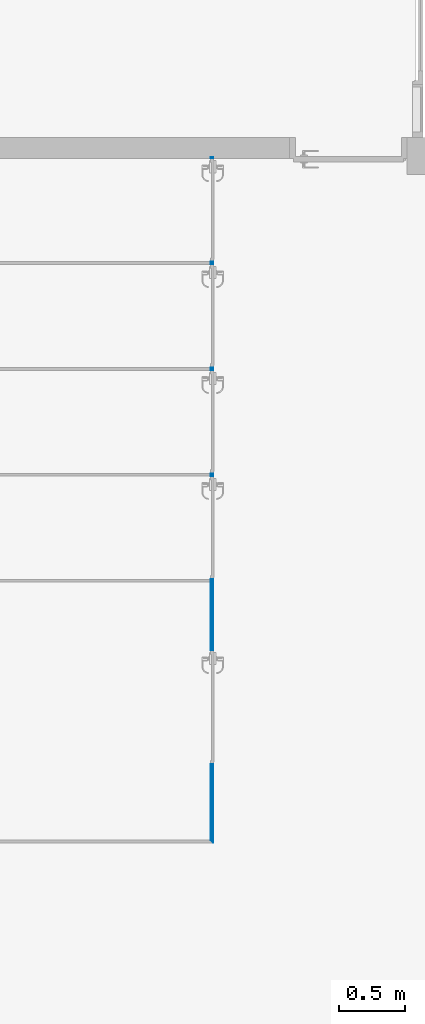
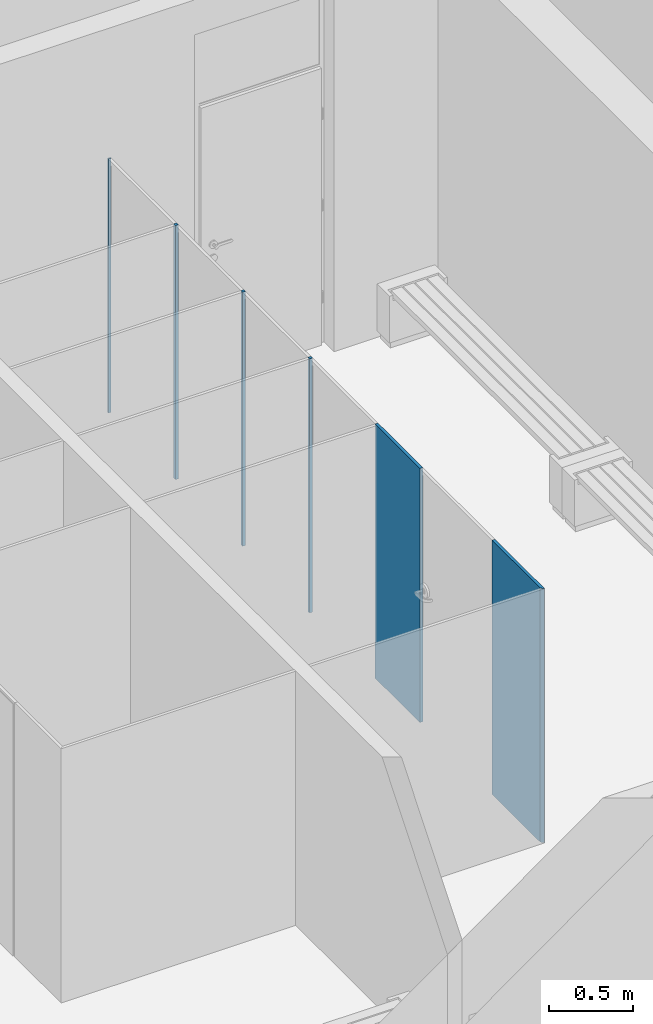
# One storey, part 29 of 45: 1 wall, 5 openings.
"""IFC2X3 building model written with IfcOpenShell, lengths in metres."""

from ifc_helpers import new_model, entity, si_unit, converted_unit, money_unit, direction, frame, origin_with_axes, place, context, subcontext, project, spatial, polyline, outline, extrude, material, layer, layer_set, layer_usage, type_object, element, save


model = new_model("IFC2X3")

# Units and contexts
model_context = context("Model", 3, precision=1e-05, world=origin_with_axes(), true_north=direction((0.0, 1.0)))
body_context = subcontext(model_context, "Body", "Model", "MODEL_VIEW")
ifc_project = project(units=[si_unit("LENGTHUNIT", "METRE"), si_unit("AREAUNIT", "SQUARE_METRE"), si_unit("VOLUMEUNIT", "CUBIC_METRE"), converted_unit("PLANEANGLEUNIT", "DEGREE", entity("IfcPlaneAngleMeasure", 0.0174532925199), si_unit("PLANEANGLEUNIT", "RADIAN"), dimensions=[0, 0, 0, 0, 0, 0, 0]), si_unit("SOLIDANGLEUNIT", "STERADIAN"), money_unit("EUR"), converted_unit("TIMEUNIT", "Year", entity("IfcTimeMeasure", 31556926.0), si_unit("TIMEUNIT", "SECOND"), dimensions=[0, 0, 0, 0, 0, 0, 0]), si_unit("MASSUNIT", "GRAM"), si_unit("THERMODYNAMICTEMPERATUREUNIT", "DEGREE_CELSIUS"), si_unit("LUMINOUSINTENSITYUNIT", "LUMEN")], contexts=[model_context])

# Site, building, storey
site_placement = place(None, origin_with_axes())
site = spatial("IfcSite", under=ifc_project, at=site_placement, Name="Site", CompositionType="ELEMENT")
building_placement = place(site_placement, origin_with_axes())
building = spatial("IfcBuilding", under=site, at=building_placement, Name="Bâtiment", CompositionType="ELEMENT")
storey_placement = place(building_placement, origin_with_axes())
storey = spatial("IfcBuildingStorey", under=building, at=storey_placement, Name="NIVEAU BAS GYMNASE", CompositionType="ELEMENT", Elevation=0.0)

# Wall, openings
ifc_material = material(Name="Hachure solide 3821565075")
ifc_layer = layer(ifc_material, 0.02, ventilated="UNKNOWN")
ifc_layer_set = layer_set([ifc_layer], Name="Hachure solide 3821565075 0.02")
ifc_layer_usage = layer_usage(ifc_layer_set, "AXIS2", "POSITIVE", -0.02)
wall_type = type_object("IfcWallType", Name="Hachure solide 3821565075 20", PredefinedType="NOTDEFINED")
wall_placement = place(storey_placement, frame((64.7982132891, 7.95895676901, 0.0), z_axis=(0.0, 0.0, 1.0), x_axis=(0.0, 1.0, 0.0)))
wall = element("IfcWallStandardCase", 1, at=wall_placement, inside=storey, type_object=wall_type, material=ifc_layer_usage, Name="Mur-022", context=body_context, shape_type="SweptSolid", body=[
    extrude(outline(polyline([(-0.02, -0.02), (5.15985894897, -0.02), (5.15985894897, 0.0), (0.0, 0.0), (-0.02, -0.02)])), origin_with_axes(), (0.0, 0.0, 1.0), 1.85),
])
opening_1_placement = place(wall_placement, frame((2.35973397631, 0.0, -0.02), z_axis=(0.0, 0.0, 1.0), x_axis=(1.0, 0.0, 0.0)))
element("IfcOpeningElement", 2, at=opening_1_placement, cuts=wall, Name="Por-017", context=body_context, shape_type="SweptSolid", body=[
    extrude(outline(polyline([(-0.39, 0.0), (-0.39, -1.87), (0.39, -1.87), (0.39, 0.0), (-0.39, 0.0)])), frame((0.0, 0.02, 0.0), z_axis=(0.0, -1.0, 0.0), x_axis=(-1.0, 0.0, 0.0)), (0.0, 0.0, 1.0), 0.04),
])
opening_2_placement = place(wall_placement, frame((3.15985894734, 0.0, -0.02), z_axis=(0.0, 0.0, 1.0), x_axis=(1.0, 0.0, 0.0)))
element("IfcOpeningElement", 3, at=opening_2_placement, cuts=wall, Name="Por-017", context=body_context, shape_type="SweptSolid", body=[
    extrude(outline(polyline([(-0.39, 0.0), (-0.39, -1.87), (0.39, -1.87), (0.39, 0.0), (-0.39, 0.0)])), frame((0.0, 0.02, 0.0), z_axis=(0.0, -1.0, 0.0), x_axis=(-1.0, 0.0, 0.0)), (0.0, 0.0, 1.0), 0.04),
])
opening_3_placement = place(wall_placement, frame((3.95985894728, 0.0, -0.02), z_axis=(0.0, 0.0, 1.0), x_axis=(1.0, 0.0, 0.0)))
element("IfcOpeningElement", 4, at=opening_3_placement, cuts=wall, Name="Por-018", context=body_context, shape_type="SweptSolid", body=[
    extrude(outline(polyline([(-0.39, 0.0), (-0.39, -1.87), (0.39, -1.87), (0.39, 0.0), (-0.39, 0.0)])), frame((0.0, 0.02, 0.0), z_axis=(0.0, -1.0, 0.0), x_axis=(-1.0, 0.0, 0.0)), (0.0, 0.0, 1.0), 0.04),
])
opening_4_placement = place(wall_placement, frame((4.75985894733, 0.0, -0.02), z_axis=(0.0, 0.0, 1.0), x_axis=(1.0, 0.0, 0.0)))
element("IfcOpeningElement", 5, at=opening_4_placement, cuts=wall, Name="Por-019", context=body_context, shape_type="SweptSolid", body=[
    extrude(outline(polyline([(-0.39, 0.0), (-0.39, -1.87), (0.39, -1.87), (0.39, 0.0), (-0.39, 0.0)])), frame((0.0, 0.02, 0.0), z_axis=(0.0, -1.0, 0.0), x_axis=(-1.0, 0.0, 0.0)), (0.0, 0.0, 1.0), 0.04),
])
opening_5_placement = place(wall_placement, frame((1.00398730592, 0.0, -0.02), z_axis=(0.0, 0.0, 1.0), x_axis=(1.0, 0.0, 0.0)))
element("IfcOpeningElement", 6, at=opening_5_placement, cuts=wall, Name="Por-020", context=body_context, shape_type="SweptSolid", body=[
    extrude(outline(polyline([(-0.43, 0.0), (-0.43, -1.87), (0.43, -1.87), (0.43, 0.0), (-0.43, 0.0)])), frame((0.0, 0.02, 0.0), z_axis=(0.0, -1.0, 0.0), x_axis=(-1.0, 0.0, 0.0)), (0.0, 0.0, 1.0), 0.04),
])

save(model, "model.ifc")
